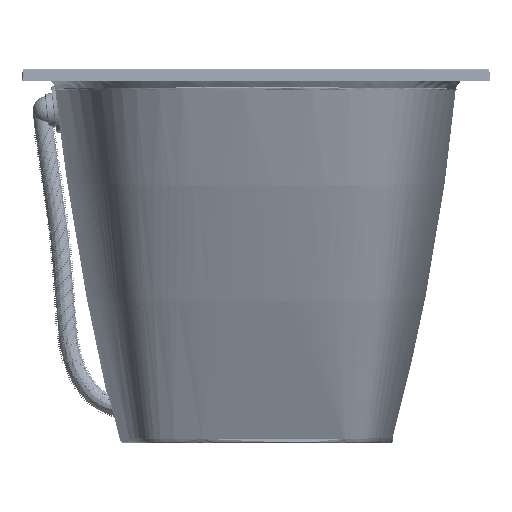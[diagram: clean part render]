
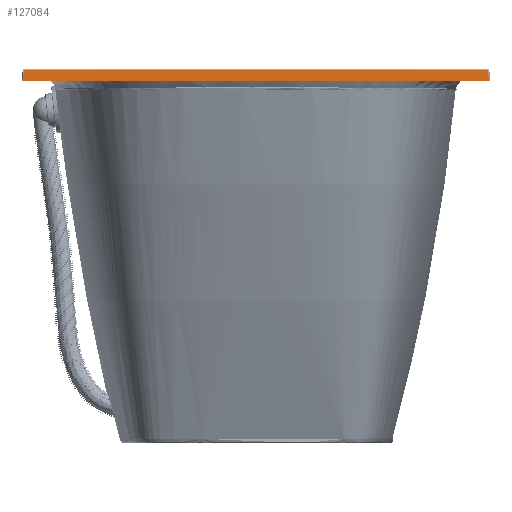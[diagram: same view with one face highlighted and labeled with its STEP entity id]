
A CAD part, left-side view. The second image highlights one B-rep face of the part: STEP entity #127084.
In plain terms, the highlighted planar face has unit normal (-0.999, 0, 0.052) as drawn and (0.999, 0.052, 0) by its records, which use the part's own axes.
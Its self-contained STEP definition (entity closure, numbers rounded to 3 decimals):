
#4025 = CARTESIAN_POINT ( 'NONE',  ( 897.922, -1.84, -369.894 ) ) ;
#4942 = LINE ( 'NONE', #37321, #170568 ) ;
#8099 = EDGE_LOOP ( 'NONE', ( #20999, #94164, #157282, #213198, #136743, #162646 ) ) ;
#12183 = CARTESIAN_POINT ( 'NONE',  ( 897.823, 0.059, -373.546 ) ) ;
#13540 = CARTESIAN_POINT ( 'NONE',  ( 897.922, -1.829, 371.541 ) ) ;
#19011 = DIRECTION ( 'NONE',  ( -0.052, 0.997, 0.052 ) ) ;
#19597 = CARTESIAN_POINT ( 'NONE',  ( 897.923, -1.861, 53.101 ) ) ;
#20999 = ORIENTED_EDGE ( 'NONE', *, *, #123804, .T. ) ;
#27632 = DIRECTION ( 'NONE',  ( -0.052, 0.999, 0. ) ) ;
#30423 = CARTESIAN_POINT ( 'NONE',  ( 897.923, -1.846, 368.006 ) ) ;
#31812 = FACE_OUTER_BOUND ( 'NONE', #8099, .T. ) ;
#35757 = CARTESIAN_POINT ( 'NONE',  ( 897.923, -1.846, -366.364 ) ) ;
#36475 = CARTESIAN_POINT ( 'NONE',  ( 897.923, -1.856, 213.409 ) ) ;
#37321 = CARTESIAN_POINT ( 'NONE',  ( 897.828, -0.045, -371.566 ) ) ;
#37582 = B_SPLINE_CURVE_WITH_KNOTS ( 'NONE', 3,
 ( #158220, #4025, #106773, #205443 ),
 .UNSPECIFIED., .F., .F.,
 ( 4, 4 ),
 ( 0., 0.005 ),
 .UNSPECIFIED. ) ;
#48940 = VERTEX_POINT ( 'NONE', #94738 ) ;
#50664 = EDGE_CURVE ( 'NONE', #139155, #156531, #37582, .T. ) ;
#51879 = CARTESIAN_POINT ( 'NONE',  ( 897.923, -1.859, 136.994 ) ) ;
#53345 = CARTESIAN_POINT ( 'NONE',  ( 897.923, -1.861, -30.792 ) ) ;
#54415 = VERTEX_POINT ( 'NONE', #92949 ) ;
#68924 = CARTESIAN_POINT ( 'NONE',  ( 898.871, -19.941, -374.332 ) ) ;
#70886 = CARTESIAN_POINT ( 'NONE',  ( 897.923, -1.851, 289.824 ) ) ;
#76430 = CARTESIAN_POINT ( 'NONE',  ( 897.923, -1.846, -366.364 ) ) ;
#85826 = DIRECTION ( 'NONE',  ( 0., 0., 1. ) ) ;
#92890 = PLANE ( 'NONE',  #155959 ) ;
#92949 = CARTESIAN_POINT ( 'NONE',  ( 898.871, -19.941, -372.608 ) ) ;
#94164 = ORIENTED_EDGE ( 'NONE', *, *, #122849, .T. ) ;
#94738 = CARTESIAN_POINT ( 'NONE',  ( 897.923, -1.846, 366.239 ) ) ;
#95650 = VERTEX_POINT ( 'NONE', #198077 ) ;
#102487 = CARTESIAN_POINT ( 'NONE',  ( 897.923, -1.852, -282.471 ) ) ;
#106773 = CARTESIAN_POINT ( 'NONE',  ( 897.923, -1.846, -368.129 ) ) ;
#108924 = LINE ( 'NONE', #68924, #203775 ) ;
#113128 = B_SPLINE_CURVE_WITH_KNOTS ( 'NONE', 3,
 ( #165517, #30423, #147905, #13540 ),
 .UNSPECIFIED., .F., .F.,
 ( 4, 4 ),
 ( 0., 0.005 ),
 .UNSPECIFIED. ) ;
#119231 = VECTOR ( 'NONE', #214747, 1000. ) ;
#120209 = CARTESIAN_POINT ( 'NONE',  ( 897.923, -1.859, -114.685 ) ) ;
#121668 = CARTESIAN_POINT ( 'NONE',  ( 897.923, -1.846, 366.239 ) ) ;
#122849 = EDGE_CURVE ( 'NONE', #95650, #174456, #148068, .T. ) ;
#123543 = EDGE_CURVE ( 'NONE', #156531, #48940, #197743, .T. ) ;
#123804 = EDGE_CURVE ( 'NONE', #48940, #95650, #113128, .T. ) ;
#127084 = ADVANCED_FACE ( 'NONE', ( #31812 ), #92890, .T. ) ;
#136743 = ORIENTED_EDGE ( 'NONE', *, *, #50664, .T. ) ;
#137669 = EDGE_CURVE ( 'NONE', #54415, #139155, #4942, .T. ) ;
#139155 = VERTEX_POINT ( 'NONE', #175924 ) ;
#144399 = DIRECTION ( 'NONE',  ( 0.999, 0.052, 0. ) ) ;
#147905 = CARTESIAN_POINT ( 'NONE',  ( 897.922, -1.84, 369.774 ) ) ;
#148068 = LINE ( 'NONE', #182267, #119231 ) ;
#153959 = CARTESIAN_POINT ( 'NONE',  ( 897.923, -1.857, -198.578 ) ) ;
#155959 = AXIS2_PLACEMENT_3D ( 'NONE', #12183, #144399, #27632 ) ;
#156531 = VERTEX_POINT ( 'NONE', #76430 ) ;
#157282 = ORIENTED_EDGE ( 'NONE', *, *, #214692, .F. ) ;
#158220 = CARTESIAN_POINT ( 'NONE',  ( 897.922, -1.829, -371.659 ) ) ;
#162646 = ORIENTED_EDGE ( 'NONE', *, *, #123543, .T. ) ;
#165517 = CARTESIAN_POINT ( 'NONE',  ( 897.923, -1.846, 366.239 ) ) ;
#166120 = CARTESIAN_POINT ( 'NONE',  ( 898.871, -19.941, 372.49 ) ) ;
#170568 = VECTOR ( 'NONE', #19011, 1000. ) ;
#174456 = VERTEX_POINT ( 'NONE', #166120 ) ;
#175924 = CARTESIAN_POINT ( 'NONE',  ( 897.922, -1.829, -371.659 ) ) ;
#182267 = CARTESIAN_POINT ( 'NONE',  ( 895.788, 38.889, 369.407 ) ) ;
#197743 = B_SPLINE_CURVE_WITH_KNOTS ( 'NONE', 3,
 ( #35757, #102487, #153959, #120209, #53345, #19597, #51879, #36475, #70886, #121668 ),
 .UNSPECIFIED., .F., .F.,
 ( 4, 3, 3, 4 ),
 ( 0., 0.252, 0.503, 0.733 ),
 .UNSPECIFIED. ) ;
#198077 = CARTESIAN_POINT ( 'NONE',  ( 897.922, -1.829, 371.541 ) ) ;
#203775 = VECTOR ( 'NONE', #85826, 1000. ) ;
#205443 = CARTESIAN_POINT ( 'NONE',  ( 897.923, -1.846, -366.364 ) ) ;
#213198 = ORIENTED_EDGE ( 'NONE', *, *, #137669, .T. ) ;
#214692 = EDGE_CURVE ( 'NONE', #54415, #174456, #108924, .T. ) ;
#214747 = DIRECTION ( 'NONE',  ( 0.052, -0.997, 0.052 ) ) ;
